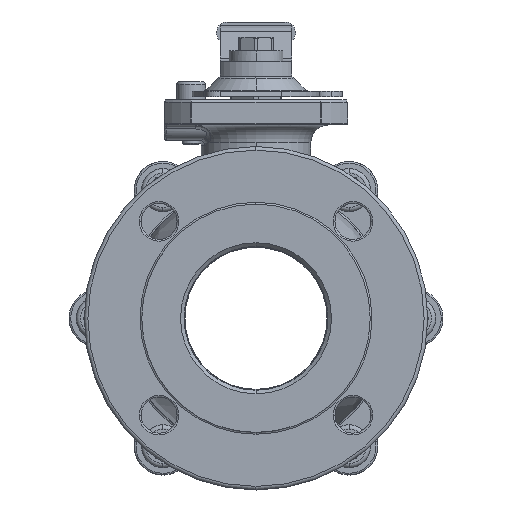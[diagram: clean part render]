
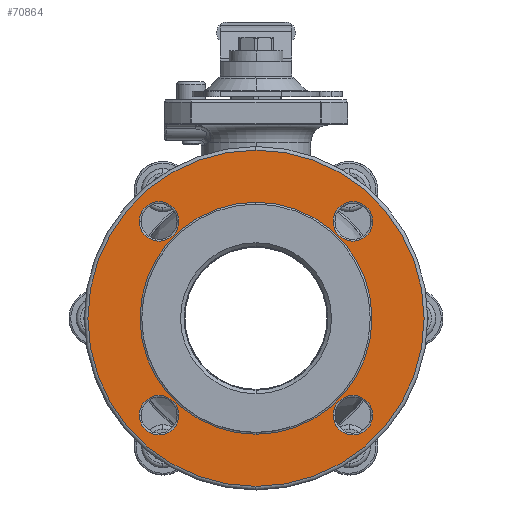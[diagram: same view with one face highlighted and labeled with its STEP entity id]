
A CAD part, left-side view. The second image highlights one B-rep face of the part: STEP entity #70864.
In plain terms, the highlighted planar face has unit normal (-1, 0, 0).
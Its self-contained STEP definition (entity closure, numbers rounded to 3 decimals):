
#17812=CARTESIAN_POINT('',(-81.4,0.,0.));
#17813=DIRECTION('',(1.,0.,0.));
#17814=DIRECTION('',(0.,0.,1.));
#17815=AXIS2_PLACEMENT_3D('',#17812,#17813,#17814);
#17827=CARTESIAN_POINT('',(-81.4,0.,0.));
#17828=DIRECTION('',(1.,0.,0.));
#17829=DIRECTION('',(0.,0.,-1.));
#17830=AXIS2_PLACEMENT_3D('',#17827,#17828,#17829);
#17845=CARTESIAN_POINT('',(-81.4,0.,0.));
#17846=DIRECTION('',(-1.,0.,0.));
#17847=DIRECTION('',(0.,0.,-1.));
#17848=AXIS2_PLACEMENT_3D('',#17845,#17846,#17847);
#17860=CARTESIAN_POINT('',(-81.4,0.,0.));
#17861=DIRECTION('',(-1.,0.,0.));
#17862=DIRECTION('',(0.,0.,1.));
#17863=AXIS2_PLACEMENT_3D('',#17860,#17861,#17862);
#17903=CARTESIAN_POINT('',(-81.4,53.882,53.882));
#17904=DIRECTION('',(1.,0.,0.));
#17905=DIRECTION('',(0.,1.,0.));
#17906=AXIS2_PLACEMENT_3D('',#17903,#17904,#17905);
#17918=CARTESIAN_POINT('',(-81.4,53.882,53.882));
#17919=DIRECTION('',(1.,0.,0.));
#17920=DIRECTION('',(0.,-1.,0.));
#17921=AXIS2_PLACEMENT_3D('',#17918,#17919,#17920);
#17971=CARTESIAN_POINT('',(-81.4,53.882,-53.882));
#17972=DIRECTION('',(1.,0.,0.));
#17973=DIRECTION('',(0.,1.,0.));
#17974=AXIS2_PLACEMENT_3D('',#17971,#17972,#17973);
#17986=CARTESIAN_POINT('',(-81.4,53.882,-53.882));
#17987=DIRECTION('',(1.,0.,0.));
#17988=DIRECTION('',(0.,-1.,0.));
#17989=AXIS2_PLACEMENT_3D('',#17986,#17987,#17988);
#18039=CARTESIAN_POINT('',(-81.4,-53.882,-53.882));
#18040=DIRECTION('',(1.,0.,0.));
#18041=DIRECTION('',(0.,-1.,0.));
#18042=AXIS2_PLACEMENT_3D('',#18039,#18040,#18041);
#18054=CARTESIAN_POINT('',(-81.4,-53.882,-53.882));
#18055=DIRECTION('',(1.,0.,0.));
#18056=DIRECTION('',(0.,1.,0.));
#18057=AXIS2_PLACEMENT_3D('',#18054,#18055,#18056);
#18107=CARTESIAN_POINT('',(-81.4,-53.882,53.882));
#18108=DIRECTION('',(1.,0.,0.));
#18109=DIRECTION('',(0.,1.,0.));
#18110=AXIS2_PLACEMENT_3D('',#18107,#18108,#18109);
#18122=CARTESIAN_POINT('',(-81.4,-53.882,53.882));
#18123=DIRECTION('',(1.,0.,0.));
#18124=DIRECTION('',(0.,-1.,0.));
#18125=AXIS2_PLACEMENT_3D('',#18122,#18123,#18124);
#38407=CARTESIAN_POINT('',(-81.4,0.,-93.5));
#38408=CARTESIAN_POINT('',(-81.4,0.,93.5));
#38409=VERTEX_POINT('',#38407);
#38410=VERTEX_POINT('',#38408);
#38981=CARTESIAN_POINT('',(-81.4,64.882,53.882));
#38982=CARTESIAN_POINT('',(-81.4,42.882,53.882));
#38983=VERTEX_POINT('',#38981);
#38984=VERTEX_POINT('',#38982);
#38997=CARTESIAN_POINT('',(-81.4,64.882,-53.882));
#38998=CARTESIAN_POINT('',(-81.4,42.882,-53.882));
#38999=VERTEX_POINT('',#38997);
#39000=VERTEX_POINT('',#38998);
#39005=CARTESIAN_POINT('',(-81.4,-64.882,-53.882));
#39006=CARTESIAN_POINT('',(-81.4,-42.882,-53.882));
#39007=VERTEX_POINT('',#39005);
#39008=VERTEX_POINT('',#39006);
#39013=CARTESIAN_POINT('',(-81.4,-42.882,53.882));
#39014=CARTESIAN_POINT('',(-81.4,-64.882,53.882));
#39015=VERTEX_POINT('',#39013);
#39016=VERTEX_POINT('',#39014);
#39081=CARTESIAN_POINT('',(-81.4,0.,-64.5));
#39082=CARTESIAN_POINT('',(-81.4,0.,64.5));
#39083=VERTEX_POINT('',#39081);
#39084=VERTEX_POINT('',#39082);
#70825=CARTESIAN_POINT('',(-81.4,0.,0.));
#70826=DIRECTION('',(-1.,0.,0.));
#70827=DIRECTION('',(0.,0.,1.));
#70828=AXIS2_PLACEMENT_3D('',#70825,#70826,#70827);
#70829=PLANE('',#70828);
#70830=ORIENTED_EDGE('',*,*,#70807,.T.);
#70831=ORIENTED_EDGE('',*,*,#70792,.T.);
#70832=EDGE_LOOP('',(#70830,#70831));
#70833=FACE_OUTER_BOUND('',#70832,.F.);
#70835=ORIENTED_EDGE('',*,*,#70834,.T.);
#70837=ORIENTED_EDGE('',*,*,#70836,.T.);
#70838=EDGE_LOOP('',(#70835,#70837));
#70839=FACE_BOUND('',#70838,.F.);
#70841=ORIENTED_EDGE('',*,*,#70840,.F.);
#70843=ORIENTED_EDGE('',*,*,#70842,.F.);
#70844=EDGE_LOOP('',(#70841,#70843));
#70845=FACE_BOUND('',#70844,.F.);
#70847=ORIENTED_EDGE('',*,*,#70846,.F.);
#70849=ORIENTED_EDGE('',*,*,#70848,.F.);
#70850=EDGE_LOOP('',(#70847,#70849));
#70851=FACE_BOUND('',#70850,.F.);
#70853=ORIENTED_EDGE('',*,*,#70852,.F.);
#70855=ORIENTED_EDGE('',*,*,#70854,.F.);
#70856=EDGE_LOOP('',(#70853,#70855));
#70857=FACE_BOUND('',#70856,.F.);
#70859=ORIENTED_EDGE('',*,*,#70858,.F.);
#70861=ORIENTED_EDGE('',*,*,#70860,.F.);
#70862=EDGE_LOOP('',(#70859,#70861));
#70863=FACE_BOUND('',#70862,.F.);
#70864=ADVANCED_FACE('',(#70833,#70839,#70845,#70851,#70857,#70863),#70829,.T.);
#17816=CIRCLE('',#17815,93.5);
#17831=CIRCLE('',#17830,93.5);
#17849=CIRCLE('',#17848,64.5);
#17864=CIRCLE('',#17863,64.5);
#17907=CIRCLE('',#17906,11.);
#17922=CIRCLE('',#17921,11.);
#17975=CIRCLE('',#17974,11.);
#17990=CIRCLE('',#17989,11.);
#18043=CIRCLE('',#18042,11.);
#18058=CIRCLE('',#18057,11.);
#18111=CIRCLE('',#18110,11.);
#18126=CIRCLE('',#18125,11.);
#70792=EDGE_CURVE('',#38410,#38409,#17816,.T.);
#70807=EDGE_CURVE('',#38409,#38410,#17831,.T.);
#70834=EDGE_CURVE('',#39083,#39084,#17849,.T.);
#70836=EDGE_CURVE('',#39084,#39083,#17864,.T.);
#70840=EDGE_CURVE('',#38983,#38984,#17907,.T.);
#70842=EDGE_CURVE('',#38984,#38983,#17922,.T.);
#70846=EDGE_CURVE('',#38999,#39000,#17975,.T.);
#70848=EDGE_CURVE('',#39000,#38999,#17990,.T.);
#70852=EDGE_CURVE('',#39007,#39008,#18043,.T.);
#70854=EDGE_CURVE('',#39008,#39007,#18058,.T.);
#70858=EDGE_CURVE('',#39015,#39016,#18111,.T.);
#70860=EDGE_CURVE('',#39016,#39015,#18126,.T.);
